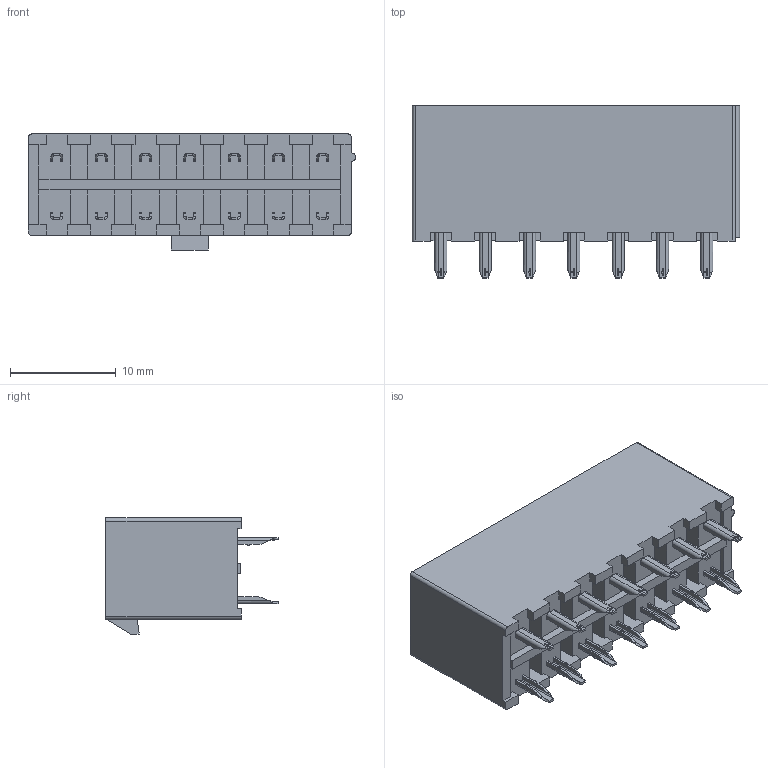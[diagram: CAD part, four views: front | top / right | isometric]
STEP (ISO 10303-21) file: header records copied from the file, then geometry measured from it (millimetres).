
FILE_DESCRIPTION((''),'2;1');
FILE_NAME('S-56976-014XX-001','2019-08-08T',('d33379'),(''),'CREO PARAMETRIC BY PTC INC, 2014500','CREO PARAMETRIC BY PTC INC, 2014500','');
FILE_SCHEMA(('CONFIG_CONTROL_DESIGN'));
Products named in the file (1): S-56976-014XX-001
Bounding box: 31 x 16.3 x 11 mm (x, y, z)
Volume: 1750.9 mm3; surface area: 4459.5 mm2
Topology: 1 solids, 1 shells, 2143 faces, 5803 edges, 3704 vertices
Faces by surface type: plane 1168, cylinder 635, bspline 340
Entity records: 93914 total; most frequent: CARTESIAN_POINT 42004, ORIENTED_EDGE 11550, DIRECTION 9679, EDGE_CURVE 5775, VERTEX_POINT 3676, VECTOR 3621, LINE 3621, AXIS2_PLACEMENT_3D 3029
